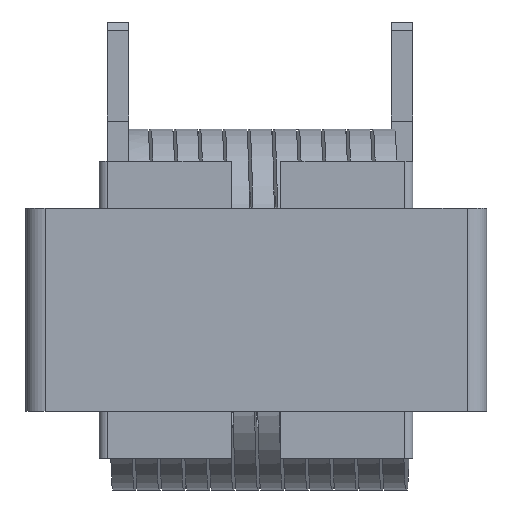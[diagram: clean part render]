
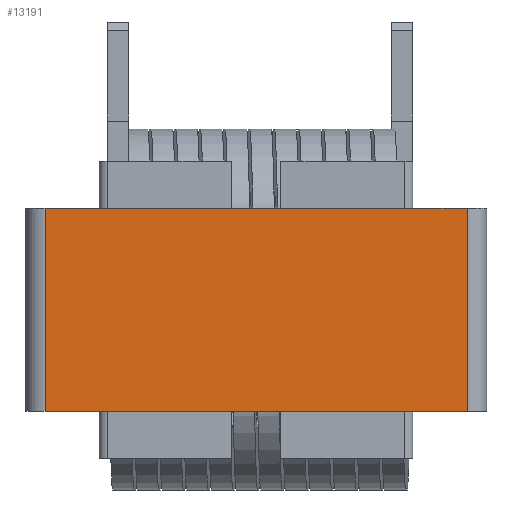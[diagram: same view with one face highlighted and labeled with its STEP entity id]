
A CAD part, left-side view. The second image highlights one B-rep face of the part: STEP entity #13191.
In plain terms, the highlighted planar face has unit normal (-1, 0, 0).
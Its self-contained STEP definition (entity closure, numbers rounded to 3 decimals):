
#196 = DIRECTION ( 'NONE',  ( 0., -1., 0. ) ) ;
#890 = EDGE_LOOP ( 'NONE', ( #1189, #14057, #12014, #9825 ) ) ;
#1189 = ORIENTED_EDGE ( 'NONE', *, *, #21575, .T. ) ;
#1236 = VECTOR ( 'NONE', #12541, 1000. ) ;
#1418 = VERTEX_POINT ( 'NONE', #22215 ) ;
#1953 = VECTOR ( 'NONE', #17924, 1000. ) ;
#1991 = CARTESIAN_POINT ( 'NONE',  ( -27.811, 41.92, 12.3 ) ) ;
#3492 = CARTESIAN_POINT ( 'NONE',  ( -27.811, 41.92, 12.3 ) ) ;
#4077 = FACE_OUTER_BOUND ( 'NONE', #890, .T. ) ;
#4415 = VECTOR ( 'NONE', #11975, 1000. ) ;
#5323 = LINE ( 'NONE', #3492, #1953 ) ;
#5823 = VERTEX_POINT ( 'NONE', #6648 ) ;
#6248 = EDGE_CURVE ( 'NONE', #17496, #21650, #5323, .T. ) ;
#6648 = CARTESIAN_POINT ( 'NONE',  ( -27.811, -9.2, 12.3 ) ) ;
#8650 = AXIS2_PLACEMENT_3D ( 'NONE', #16335, #18284, #9282 ) ;
#8865 = LINE ( 'NONE', #17392, #4415 ) ;
#9216 = CARTESIAN_POINT ( 'NONE',  ( -27.811, 41.92, -12.3 ) ) ;
#9282 = DIRECTION ( 'NONE',  ( 0., 0., -1. ) ) ;
#9825 = ORIENTED_EDGE ( 'NONE', *, *, #6248, .T. ) ;
#10912 = PLANE ( 'NONE',  #8650 ) ;
#11975 = DIRECTION ( 'NONE',  ( 0., 0., -1. ) ) ;
#12014 = ORIENTED_EDGE ( 'NONE', *, *, #19729, .F. ) ;
#12319 = CARTESIAN_POINT ( 'NONE',  ( -27.811, 16.36, -12.3 ) ) ;
#12541 = DIRECTION ( 'NONE',  ( 0., -1., 0. ) ) ;
#13191 = ADVANCED_FACE ( 'NONE', ( #4077 ), #10912, .F. ) ;
#14057 = ORIENTED_EDGE ( 'NONE', *, *, #17937, .F. ) ;
#15919 = CARTESIAN_POINT ( 'NONE',  ( -27.811, 16.36, 12.3 ) ) ;
#16335 = CARTESIAN_POINT ( 'NONE',  ( -27.811, 16.36, 12.3 ) ) ;
#17392 = CARTESIAN_POINT ( 'NONE',  ( -27.811, -9.2, 12.3 ) ) ;
#17496 = VERTEX_POINT ( 'NONE', #1991 ) ;
#17924 = DIRECTION ( 'NONE',  ( 0., 0., -1. ) ) ;
#17937 = EDGE_CURVE ( 'NONE', #5823, #1418, #8865, .T. ) ;
#18284 = DIRECTION ( 'NONE',  ( 1., 0., 0. ) ) ;
#18483 = LINE ( 'NONE', #12319, #1236 ) ;
#18499 = LINE ( 'NONE', #15919, #21866 ) ;
#19729 = EDGE_CURVE ( 'NONE', #17496, #5823, #18499, .T. ) ;
#21575 = EDGE_CURVE ( 'NONE', #21650, #1418, #18483, .T. ) ;
#21650 = VERTEX_POINT ( 'NONE', #9216 ) ;
#21866 = VECTOR ( 'NONE', #196, 1000. ) ;
#22215 = CARTESIAN_POINT ( 'NONE',  ( -27.811, -9.2, -12.3 ) ) ;
